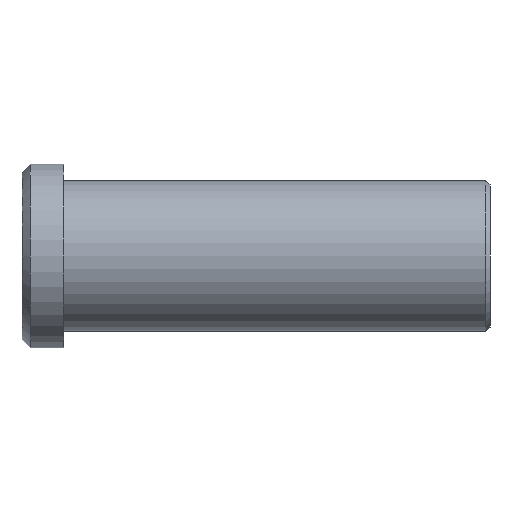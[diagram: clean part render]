
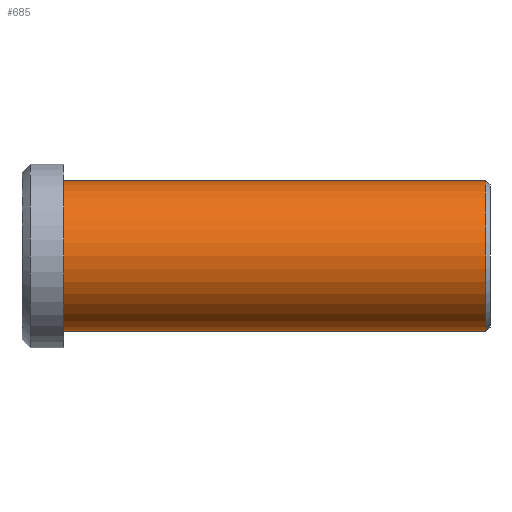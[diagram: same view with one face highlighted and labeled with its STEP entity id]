
A CAD part, front view. The second image highlights one B-rep face of the part: STEP entity #685.
In plain terms, the highlighted cylindrical face has radius 9 mm (diameter 18 mm), a partial arc.
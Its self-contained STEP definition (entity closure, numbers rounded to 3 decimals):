
#495=CARTESIAN_POINT('Vertex',(0.,0.,-9.)) ;
#500=CARTESIAN_POINT('Axis2P3D Location',(0.,0.,0.)) ;
#504=CARTESIAN_POINT('Vertex',(0.,-9.,0.)) ;
#507=CARTESIAN_POINT('Axis2P3D Location',(0.,0.,0.)) ;
#511=CARTESIAN_POINT('Vertex',(0.,0.,9.)) ;
#625=CARTESIAN_POINT('Line Origine',(51.,0.,9.)) ;
#629=CARTESIAN_POINT('Vertex',(50.5,0.,9.)) ;
#643=CARTESIAN_POINT('Vertex',(50.5,0.,-9.)) ;
#646=CARTESIAN_POINT('Line Origine',(51.,0.,-9.)) ;
#660=CARTESIAN_POINT('Axis2P3D Location',(51.,0.,0.)) ;
#665=CARTESIAN_POINT('Axis2P3D Location',(50.5,0.,0.)) ;
#669=CARTESIAN_POINT('Vertex',(50.5,-9.,0.)) ;
#672=CARTESIAN_POINT('Axis2P3D Location',(50.5,0.,0.)) ;
#501=DIRECTION('Axis2P3D Direction',(1.,0.,-0.)) ;
#508=DIRECTION('Axis2P3D Direction',(1.,0.,-0.)) ;
#626=DIRECTION('Vector Direction',(-1.,0.,0.)) ;
#647=DIRECTION('Vector Direction',(-1.,0.,0.)) ;
#661=DIRECTION('Axis2P3D Direction',(-1.,-0.,-0.)) ;
#662=DIRECTION('Axis2P3D XDirection',(0.,0.,-1.)) ;
#666=DIRECTION('Axis2P3D Direction',(-1.,-0.,-0.)) ;
#673=DIRECTION('Axis2P3D Direction',(-1.,-0.,-0.)) ;
#502=AXIS2_PLACEMENT_3D('Circle Axis2P3D',#500,#501,$) ;
#509=AXIS2_PLACEMENT_3D('Circle Axis2P3D',#507,#508,$) ;
#663=AXIS2_PLACEMENT_3D('Cylinder Axis2P3D',#660,#661,#662) ;
#667=AXIS2_PLACEMENT_3D('Circle Axis2P3D',#665,#666,$) ;
#674=AXIS2_PLACEMENT_3D('Circle Axis2P3D',#672,#673,$) ;
#678=ORIENTED_EDGE('',*,*,#650,.T.) ;
#679=ORIENTED_EDGE('',*,*,#671,.F.) ;
#680=ORIENTED_EDGE('',*,*,#676,.F.) ;
#681=ORIENTED_EDGE('',*,*,#631,.T.) ;
#682=ORIENTED_EDGE('',*,*,#513,.T.) ;
#683=ORIENTED_EDGE('',*,*,#506,.T.) ;
#627=VECTOR('Line Direction',#626,1.) ;
#648=VECTOR('Line Direction',#647,1.) ;
#685=ADVANCED_FACE('353-12X56',(#684),#664,.T.) ;
#503=CIRCLE('generated circle',#502,9.) ;
#510=CIRCLE('generated circle',#509,9.) ;
#668=CIRCLE('generated circle',#667,9.) ;
#675=CIRCLE('generated circle',#674,9.) ;
#664=CYLINDRICAL_SURFACE('generated cylinder',#663,9.) ;
#506=EDGE_CURVE('',#505,#496,#503,.T.) ;
#513=EDGE_CURVE('',#512,#505,#510,.T.) ;
#631=EDGE_CURVE('',#630,#512,#628,.T.) ;
#650=EDGE_CURVE('',#496,#644,#649,.F.) ;
#671=EDGE_CURVE('',#670,#644,#668,.F.) ;
#676=EDGE_CURVE('',#630,#670,#675,.F.) ;
#677=EDGE_LOOP('',(#678,#679,#680,#681,#682,#683)) ;
#684=FACE_OUTER_BOUND('',#677,.T.) ;
#628=LINE('Line',#625,#627) ;
#649=LINE('Line',#646,#648) ;
#496=VERTEX_POINT('',#495) ;
#505=VERTEX_POINT('',#504) ;
#512=VERTEX_POINT('',#511) ;
#630=VERTEX_POINT('',#629) ;
#644=VERTEX_POINT('',#643) ;
#670=VERTEX_POINT('',#669) ;
